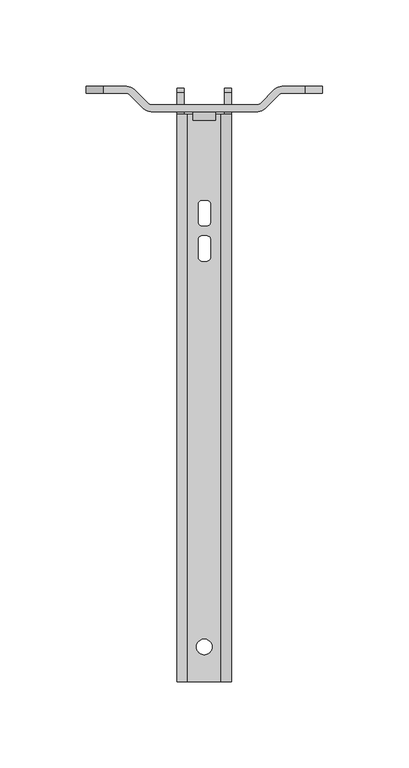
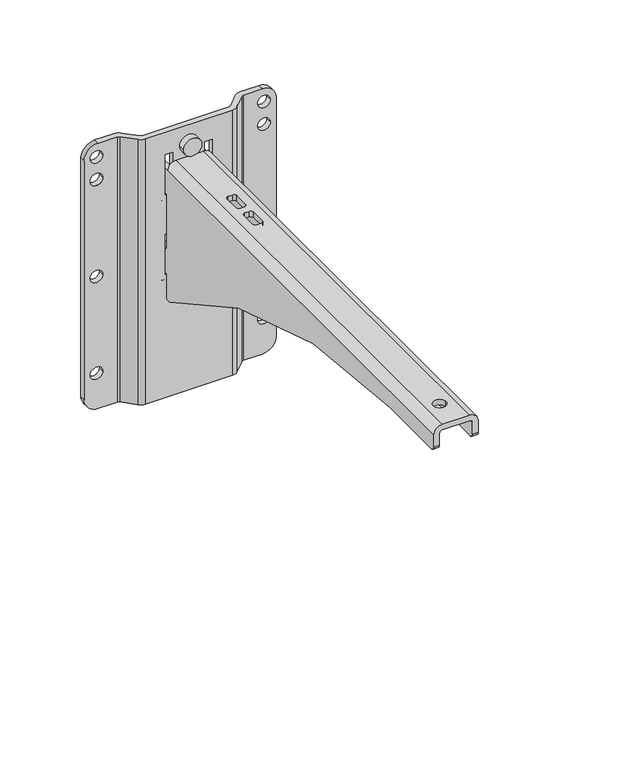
"""IFC4 building model written with IfcOpenShell, lengths in millimetres: proxy geometry, ePS10-WM330-HBRK535-WHM : ePS10-WM330-HBRK535-WHM."""

from ifc_helpers import new_model, si_unit, point, frame, frame_2d, origin, place, context, project, spatial, polyline, circle_curve, trimmed, segment, composite_curve, outline, extrude, source, transform, mapped, element, save
from ifc_brep_helpers import plane_surface, cylinder_surface, revolved_surface, advanced_brep


def generic_models_d4df1c55(model_context):
    return source(origin(), model_context, "Body", "SolidModel", [
        advanced_brep(
        [(-11.75, -344.6066017, -18.0), (-9.75, -344.6066017, -16.0), (9.75, -344.6066017, -16.0), (11.75, -344.6066017, -18.0), (11.75, -344.6066017, -27.0), (15.75, -344.6066017, -27.0), (15.75, -344.6066017, -17.9999955), (9.7500045, -344.6066017, -12.0), (-9.7500045, -344.6066017, -12.0), (-15.75, -344.6066017, -17.9999955), (-15.75, -344.6066017, -27.0), (-11.75, -344.6066017, -27.0), (15.75, -1.0, -19.5148645), (15.75, -1.0, -44.4851355), (11.75, -1.0, -44.4851355), (11.75, -1.0, -19.5148645), (15.75, -1.0, -79.5148645), (15.75, -1.0, -104.4851355), (11.75, -1.0, -104.4851355), (11.75, -1.0, -79.5148645), (-11.75, -1.0, -19.5148645), (-11.75, -1.0, -44.4851355), (-15.75, -1.0, -44.4851355), (-15.75, -1.0, -19.5148645), (-11.75, -1.0, -79.5148645), (-11.75, -1.0, -104.4851355), (-15.75, -1.0, -104.4851355), (-15.75, -1.0, -79.5148645), (-15.75, -16.1066017, -17.9999955), (-15.75, -3.6066017, -18.0), (-15.75, -3.6066017, -46.0), (-15.75, -6.6066017, -46.0), (-15.75, -9.6066017, -43.0), (-15.75, -9.6066017, -36.5), (-15.75, -14.6066017, -36.5), (-15.75, -14.6066017, -78.0), (-15.75, -3.6066017, -78.0), (-15.75, -3.6066017, -106.0), (-15.75, -6.6066017, -106.0), (-15.75, -9.6066017, -103.0), (-15.75, -9.6066017, -96.5), (-15.75, -14.6066017, -96.5), (-15.75, -14.6066017, -115.7221159), (-15.75, -17.1105815, -115.7221159), (-15.75, -19.7818053, -114.9054408), (-15.75, -290.8148171, -30.0), (-15.75, -341.6066017, -30.0), (-11.75, -14.6066017, -115.7221159), (-11.75, -17.1105815, -115.7221159), (-11.75, -341.6066017, -30.0), (-11.75, -290.8148171, -30.0), (-11.75, -19.7818053, -114.9054408), (-11.75, -14.6066017, -96.5), (-11.75, -9.6066017, -96.5), (-11.75, -9.6066017, -103.0), (-11.75, -6.6066017, -106.0), (-11.75, -3.6066017, -106.0), (-11.75, -3.6066017, -78.0), (-11.75, -14.6066017, -78.0), (-11.75, -14.6066017, -36.5), (-11.75, -9.6066017, -36.5), (-11.75, -9.6066017, -43.0), (-11.75, -6.6066017, -46.0), (-11.75, -3.6066017, -46.0), (-11.75, -3.6066017, -18.0), (-11.75, -16.1066017, -18.0), (-9.75, -16.1066017, -16.0), (9.75, -16.1066017, -16.0), (-4.5, -324.5, -16.0), (4.5, -324.5, -16.0), (3.5, -78.6066017, -16.0), (3.5, -68.1066017, -16.0), (1.5, -66.1066017, -16.0), (-1.5, -66.1066017, -16.0), (-3.5, -68.1066017, -16.0), (-3.5, -78.6066017, -16.0), (-1.5, -80.6066017, -16.0), (1.5, -80.6066017, -16.0), (3.5, -99.1066017, -16.0), (3.5, -88.6066017, -16.0), (1.5, -86.6066017, -16.0), (-1.5, -86.6066017, -16.0), (-3.5, -88.6066017, -16.0), (-3.5, -99.1066017, -16.0), (-1.5, -101.1066017, -16.0), (1.5, -101.1066017, -16.0), (11.75, -16.1066017, -18.0), (11.75, -3.6066017, -18.0), (11.75, -3.6066017, -46.0), (11.75, -6.6066017, -46.0), (11.75, -9.6066017, -43.0), (11.75, -9.6066017, -36.5), (11.75, -14.6066017, -36.5), (11.75, -14.6066017, -78.0), (11.75, -3.6066017, -78.0), (11.75, -3.6066017, -106.0), (11.75, -6.6066017, -106.0), (11.75, -9.6066017, -103.0), (11.75, -9.6066017, -96.5), (11.75, -14.6066017, -96.5), (11.75, -14.6066017, -115.7221159), (11.75, -17.1105815, -115.7221159), (11.75, -19.7818053, -114.9054408), (11.75, -290.8148171, -30.0), (11.75, -341.6066017, -30.0), (15.75, -14.6066017, -115.7221159), (15.75, -17.1105815, -115.7221159), (15.75, -341.6066017, -30.0), (15.75, -290.8148171, -30.0), (15.75, -19.7818053, -114.9054408), (15.75, -14.6066017, -96.5), (15.75, -9.6066017, -96.5), (15.75, -9.6066017, -103.0), (15.75, -6.6066017, -106.0), (15.75, -3.6066017, -106.0), (15.75, -3.6066017, -78.0), (15.75, -14.6066017, -78.0), (15.75, -14.6066017, -36.5), (15.75, -9.6066017, -36.5), (15.75, -9.6066017, -43.0), (15.75, -6.6066017, -46.0), (15.75, -3.6066017, -46.0), (15.75, -3.6066017, -18.0), (15.75, -16.1066017, -18.0), (9.7500045, -16.1066017, -12.0), (-9.7500045, -16.1066017, -12.0), (4.5, -324.5, -12.0), (-4.5, -324.5, -12.0), (3.5, -68.1066017, -12.0), (3.5, -78.6066017, -12.0), (1.5, -80.6066017, -12.0), (-1.5, -80.6066017, -12.0), (-3.5, -78.6066017, -12.0), (-3.5, -68.1066017, -12.0), (-1.5, -66.1066017, -12.0), (1.5, -66.1066017, -12.0), (3.5, -88.6066017, -12.0), (3.5, -99.1066017, -12.0), (1.5, -101.1066017, -12.0), (-1.5, -101.1066017, -12.0), (-3.5, -99.1066017, -12.0), (-3.5, -88.6066017, -12.0), (-1.5, -86.6066017, -12.0), (1.5, -86.6066017, -12.0)],
        [
            (0, 1, circle_curve(frame((-9.75, -344.6066017, -18.0), z_axis=(0.0, 1.0, 0.0), x_axis=(1.0, 0.0, 0.0)), 2.0)),
            (1, 2),
            (2, 3, circle_curve(frame((9.75, -344.6066017, -18.0), z_axis=(0.0, 1.0, 0.0), x_axis=(-1.0, 0.0, 0.0)), 2.0)),
            (3, 4),
            (4, 5),
            (5, 6),
            (6, 7, circle_curve(frame((9.7500045, -344.6066017, -17.9999955), z_axis=(0.0, -1.0, 0.0), x_axis=(-1.0, 0.0, 0.0)), 5.9999955)),
            (7, 8),
            (8, 9, circle_curve(frame((-9.7500045, -344.6066017, -17.9999955), z_axis=(0.0, -1.0, 0.0), x_axis=(1.0, 0.0, 0.0)), 5.9999955)),
            (9, 10),
            (10, 11),
            (11, 0),
            (12, 13),
            (13, 14),
            (14, 15),
            (15, 12),
            (16, 17),
            (17, 18),
            (18, 19),
            (19, 16),
            (20, 21),
            (21, 22),
            (22, 23),
            (23, 20),
            (24, 25),
            (25, 26),
            (26, 27),
            (27, 24),
            (9, 28),
            (28, 29),
            (29, 23, circle_curve(frame((-15.75, -3.6066017, -21.0), z_axis=(-1.0, 0.0, 0.0), x_axis=(0.0, 1.0, 0.0)), 3.0)),
            (22, 30, circle_curve(frame((-15.75, -3.6066017, -43.0), z_axis=(-1.0, 0.0, 0.0), x_axis=(0.0, 1.0, 0.0)), 3.0)),
            (30, 31),
            (31, 32, circle_curve(frame((-15.75, -6.6066017, -43.0), z_axis=(-1.0, 0.0, 0.0), x_axis=(0.0, 1.0, 0.0)), 3.0)),
            (32, 33),
            (33, 34),
            (34, 35),
            (35, 36),
            (36, 27, circle_curve(frame((-15.75, -3.6066017, -81.0), z_axis=(-1.0, 0.0, 0.0), x_axis=(0.0, 1.0, 0.0)), 3.0)),
            (26, 37, circle_curve(frame((-15.75, -3.6066017, -103.0), z_axis=(-1.0, 0.0, 0.0), x_axis=(0.0, 1.0, 0.0)), 3.0)),
            (37, 38),
            (38, 39, circle_curve(frame((-15.75, -6.6066017, -103.0), z_axis=(-1.0, 0.0, 0.0), x_axis=(0.0, 1.0, 0.0)), 3.0)),
            (39, 40),
            (40, 41),
            (41, 42),
            (42, 43),
            (43, 44, circle_curve(frame((-15.75, -17.1105815, -110.9451887), z_axis=(-1.0, 0.0, 0.0), x_axis=(0.0, 1.0, 0.0)), 4.7769272)),
            (44, 45, circle_curve(frame((-15.75, -290.8148171, -505.0451006), z_axis=(1.0, 0.0, 0.0), x_axis=(0.0, 1.0, 0.0)), 475.0451006)),
            (45, 46),
            (46, 10, circle_curve(frame((-15.75, -341.6066017, -27.0), z_axis=(-1.0, 0.0, 0.0), x_axis=(0.0, 1.0, 0.0)), 3.0)),
            (42, 47),
            (47, 48),
            (48, 43),
            (11, 49, circle_curve(frame((-11.75, -341.6066017, -27.0), z_axis=(1.0, 0.0, 0.0), x_axis=(0.0, 1.0, 0.0)), 3.0)),
            (49, 50),
            (50, 51, circle_curve(frame((-11.75, -290.8148171, -505.0451006), z_axis=(-1.0, 0.0, 0.0), x_axis=(0.0, 1.0, 0.0)), 475.0451006)),
            (51, 48, circle_curve(frame((-11.75, -17.1105815, -110.9451887), z_axis=(1.0, 0.0, 0.0), x_axis=(0.0, 1.0, 0.0)), 4.7769272)),
            (47, 52),
            (52, 53),
            (53, 54),
            (54, 55, circle_curve(frame((-11.75, -6.6066017, -103.0), z_axis=(1.0, 0.0, 0.0), x_axis=(0.0, 1.0, 0.0)), 3.0)),
            (55, 56),
            (56, 25, circle_curve(frame((-11.75, -3.6066017, -103.0), z_axis=(1.0, 0.0, 0.0), x_axis=(0.0, 1.0, 0.0)), 3.0)),
            (24, 57, circle_curve(frame((-11.75, -3.6066017, -81.0), z_axis=(1.0, 0.0, 0.0), x_axis=(0.0, 1.0, 0.0)), 3.0)),
            (57, 58),
            (58, 59),
            (59, 60),
            (60, 61),
            (61, 62, circle_curve(frame((-11.75, -6.6066017, -43.0), z_axis=(1.0, 0.0, 0.0), x_axis=(0.0, 1.0, 0.0)), 3.0)),
            (62, 63),
            (63, 21, circle_curve(frame((-11.75, -3.6066017, -43.0), z_axis=(1.0, 0.0, 0.0), x_axis=(0.0, 1.0, 0.0)), 3.0)),
            (20, 64, circle_curve(frame((-11.75, -3.6066017, -21.0), z_axis=(1.0, 0.0, 0.0), x_axis=(0.0, 1.0, 0.0)), 3.0)),
            (64, 65),
            (65, 0),
            (65, 66, circle_curve(frame((-9.75, -16.1066017, -18.0), z_axis=(0.0, 1.0, 0.0), x_axis=(1.0, 0.0, 0.0)), 2.0)),
            (66, 1),
            (66, 67),
            (67, 2),
            (68, 69, circle_curve(frame((0.0, -324.5, -16.0), z_axis=(0.0, 0.0, 1.0), x_axis=(1.0, 0.0, 0.0)), 4.5)),
            (69, 68, circle_curve(frame((0.0, -324.5, -16.0), z_axis=(0.0, 0.0, 1.0), x_axis=(1.0, 0.0, 0.0)), 4.5)),
            (70, 71),
            (71, 72, circle_curve(frame((1.5, -68.1066017, -16.0), z_axis=(0.0, 0.0, 1.0), x_axis=(1.0, 0.0, 0.0)), 2.0)),
            (72, 73),
            (73, 74, circle_curve(frame((-1.5, -68.1066017, -16.0), z_axis=(0.0, 0.0, 1.0), x_axis=(-1.0, 0.0, 0.0)), 2.0)),
            (74, 75),
            (75, 76, circle_curve(frame((-1.5, -78.6066017, -16.0), z_axis=(0.0, 0.0, 1.0), x_axis=(-1.0, 0.0, 0.0)), 2.0)),
            (76, 77),
            (77, 70, circle_curve(frame((1.5, -78.6066017, -16.0), z_axis=(0.0, 0.0, 1.0), x_axis=(1.0, 0.0, 0.0)), 2.0)),
            (78, 79),
            (79, 80, circle_curve(frame((1.5, -88.6066017, -16.0), z_axis=(0.0, 0.0, 1.0), x_axis=(1.0, 0.0, 0.0)), 2.0)),
            (80, 81),
            (81, 82, circle_curve(frame((-1.5, -88.6066017, -16.0), z_axis=(0.0, 0.0, 1.0), x_axis=(-1.0, 0.0, 0.0)), 2.0)),
            (82, 83),
            (83, 84, circle_curve(frame((-1.5, -99.1066017, -16.0), z_axis=(0.0, 0.0, 1.0), x_axis=(-1.0, 0.0, 0.0)), 2.0)),
            (84, 85),
            (85, 78, circle_curve(frame((1.5, -99.1066017, -16.0), z_axis=(0.0, 0.0, 1.0), x_axis=(1.0, 0.0, 0.0)), 2.0)),
            (67, 86, circle_curve(frame((9.75, -16.1066017, -18.0), z_axis=(0.0, 1.0, 0.0), x_axis=(-1.0, 0.0, 0.0)), 2.0)),
            (86, 3),
            (86, 87),
            (87, 15, circle_curve(frame((11.75, -3.6066017, -21.0), z_axis=(-1.0, 0.0, 0.0), x_axis=(0.0, 1.0, 0.0)), 3.0)),
            (14, 88, circle_curve(frame((11.75, -3.6066017, -43.0), z_axis=(-1.0, 0.0, 0.0), x_axis=(0.0, 1.0, 0.0)), 3.0)),
            (88, 89),
            (89, 90, circle_curve(frame((11.75, -6.6066017, -43.0), z_axis=(-1.0, 0.0, 0.0), x_axis=(0.0, 1.0, 0.0)), 3.0)),
            (90, 91),
            (91, 92),
            (92, 93),
            (93, 94),
            (94, 19, circle_curve(frame((11.75, -3.6066017, -81.0), z_axis=(-1.0, 0.0, 0.0), x_axis=(0.0, 1.0, 0.0)), 3.0)),
            (18, 95, circle_curve(frame((11.75, -3.6066017, -103.0), z_axis=(-1.0, 0.0, 0.0), x_axis=(0.0, 1.0, 0.0)), 3.0)),
            (95, 96),
            (96, 97, circle_curve(frame((11.75, -6.6066017, -103.0), z_axis=(-1.0, 0.0, 0.0), x_axis=(0.0, 1.0, 0.0)), 3.0)),
            (97, 98),
            (98, 99),
            (99, 100),
            (100, 101),
            (101, 102, circle_curve(frame((11.75, -17.1105815, -110.9451887), z_axis=(-1.0, 0.0, 0.0), x_axis=(0.0, 1.0, 0.0)), 4.7769272)),
            (102, 103, circle_curve(frame((11.75, -290.8148171, -505.0451006), z_axis=(1.0, 0.0, 0.0), x_axis=(0.0, 1.0, 0.0)), 475.0451006)),
            (103, 104),
            (104, 4, circle_curve(frame((11.75, -341.6066017, -27.0), z_axis=(-1.0, 0.0, 0.0), x_axis=(0.0, 1.0, 0.0)), 3.0)),
            (100, 105),
            (105, 106),
            (106, 101),
            (5, 107, circle_curve(frame((15.75, -341.6066017, -27.0), z_axis=(1.0, 0.0, 0.0), x_axis=(0.0, 1.0, 0.0)), 3.0)),
            (107, 108),
            (108, 109, circle_curve(frame((15.75, -290.8148171, -505.0451006), z_axis=(-1.0, 0.0, 0.0), x_axis=(0.0, 1.0, 0.0)), 475.0451006)),
            (109, 106, circle_curve(frame((15.75, -17.1105815, -110.9451887), z_axis=(1.0, 0.0, 0.0), x_axis=(0.0, 1.0, 0.0)), 4.7769272)),
            (105, 110),
            (110, 111),
            (111, 112),
            (112, 113, circle_curve(frame((15.75, -6.6066017, -103.0), z_axis=(1.0, 0.0, 0.0), x_axis=(0.0, 1.0, 0.0)), 3.0)),
            (113, 114),
            (114, 17, circle_curve(frame((15.75, -3.6066017, -103.0), z_axis=(1.0, 0.0, 0.0), x_axis=(0.0, 1.0, 0.0)), 3.0)),
            (16, 115, circle_curve(frame((15.75, -3.6066017, -81.0), z_axis=(1.0, 0.0, 0.0), x_axis=(0.0, 1.0, 0.0)), 3.0)),
            (115, 116),
            (116, 117),
            (117, 118),
            (118, 119),
            (119, 120, circle_curve(frame((15.75, -6.6066017, -43.0), z_axis=(1.0, 0.0, 0.0), x_axis=(0.0, 1.0, 0.0)), 3.0)),
            (120, 121),
            (121, 13, circle_curve(frame((15.75, -3.6066017, -43.0), z_axis=(1.0, 0.0, 0.0), x_axis=(0.0, 1.0, 0.0)), 3.0)),
            (12, 122, circle_curve(frame((15.75, -3.6066017, -21.0), z_axis=(1.0, 0.0, 0.0), x_axis=(0.0, 1.0, 0.0)), 3.0)),
            (122, 123),
            (123, 6),
            (123, 124, circle_curve(frame((9.7500045, -16.1066017, -17.9999955), z_axis=(0.0, -1.0, 0.0), x_axis=(-1.0, 0.0, 0.0)), 5.9999955)),
            (124, 7),
            (124, 125),
            (125, 8),
            (126, 127, circle_curve(frame((0.0, -324.5, -12.0), z_axis=(0.0, 0.0, -1.0), x_axis=(1.0, 0.0, 0.0)), 4.5)),
            (127, 126, circle_curve(frame((0.0, -324.5, -12.0), z_axis=(0.0, 0.0, -1.0), x_axis=(1.0, 0.0, 0.0)), 4.5)),
            (128, 129),
            (129, 130, circle_curve(frame((1.5, -78.6066017, -12.0), z_axis=(0.0, 0.0, -1.0), x_axis=(1.0, 0.0, 0.0)), 2.0)),
            (130, 131),
            (131, 132, circle_curve(frame((-1.5, -78.6066017, -12.0), z_axis=(0.0, 0.0, -1.0), x_axis=(-1.0, 0.0, 0.0)), 2.0)),
            (132, 133),
            (133, 134, circle_curve(frame((-1.5, -68.1066017, -12.0), z_axis=(0.0, 0.0, -1.0), x_axis=(-1.0, 0.0, 0.0)), 2.0)),
            (134, 135),
            (135, 128, circle_curve(frame((1.5, -68.1066017, -12.0), z_axis=(0.0, 0.0, -1.0), x_axis=(1.0, 0.0, 0.0)), 2.0)),
            (136, 137),
            (137, 138, circle_curve(frame((1.5, -99.1066017, -12.0), z_axis=(0.0, 0.0, -1.0), x_axis=(1.0, 0.0, 0.0)), 2.0)),
            (138, 139),
            (139, 140, circle_curve(frame((-1.5, -99.1066017, -12.0), z_axis=(0.0, 0.0, -1.0), x_axis=(-1.0, 0.0, 0.0)), 2.0)),
            (140, 141),
            (141, 142, circle_curve(frame((-1.5, -88.6066017, -12.0), z_axis=(0.0, 0.0, -1.0), x_axis=(-1.0, 0.0, 0.0)), 2.0)),
            (142, 143),
            (143, 136, circle_curve(frame((1.5, -88.6066017, -12.0), z_axis=(0.0, 0.0, -1.0), x_axis=(1.0, 0.0, 0.0)), 2.0)),
            (125, 28, circle_curve(frame((-9.7500045, -16.1066017, -17.9999955), z_axis=(0.0, -1.0, 0.0), x_axis=(1.0, 0.0, 0.0)), 5.9999955)),
            (46, 49),
            (104, 107),
            (45, 50),
            (103, 108),
            (30, 63),
            (62, 31),
            (88, 121),
            (120, 89),
            (32, 61),
            (60, 33),
            (90, 119),
            (118, 91),
            (59, 34),
            (117, 92),
            (41, 52),
            (99, 110),
            (65, 28),
            (123, 86),
            (64, 29),
            (122, 87),
            (58, 35),
            (116, 93),
            (57, 36),
            (115, 94),
            (56, 37),
            (114, 95),
            (55, 38),
            (113, 96),
            (54, 39),
            (112, 97),
            (53, 40),
            (111, 98),
            (68, 127),
            (126, 69),
            (70, 129),
            (128, 71),
            (135, 72),
            (134, 73),
            (133, 74),
            (132, 75),
            (131, 76),
            (130, 77),
            (78, 137),
            (136, 79),
            (143, 80),
            (142, 81),
            (141, 82),
            (140, 83),
            (139, 84),
            (138, 85),
            (51, 44),
            (109, 102),
        ],
        [
            plane_surface(frame((-15.75, -344.6066017, -111.5465509), z_axis=(0.0, -1.0, 0.0), x_axis=(0.0, 0.0, -1.0))),
            plane_surface(frame((-15.75, -1.0, -111.5465509), z_axis=(0.0, 1.0, 0.0), x_axis=(0.0, 0.0, 1.0))),
            plane_surface(frame((-15.75, -344.6066017, -17.9999955), z_axis=(-1.0, 0.0, 0.0), x_axis=(0.0, 1.0, 0.0))),
            plane_surface(frame((-15.75, -344.6066017, -115.7221159), z_axis=(0.0, 0.0, -1.0), x_axis=(0.0, 1.0, 0.0))),
            plane_surface(frame((-11.75, -344.6066017, -115.7221159), z_axis=(1.0, 0.0, 0.0), x_axis=(0.0, 1.0, 0.0))),
            revolved_surface(polyline([(-7.75, -16.1066017, -18.0), (-7.75, -344.6066017, -18.0)]), (-9.75, -1.0, -18.0), (0.0, 1.0, 0.0)),
            plane_surface(frame((-9.75, -344.6066017, -16.0), z_axis=(0.0, 0.0, -1.0), x_axis=(0.0, 1.0, 0.0))),
            revolved_surface(polyline([(7.75, -16.1066017, -18.0), (7.75, -344.6066017, -18.0)]), (9.75, -1.0, -18.0), (0.0, 1.0, 0.0)),
            plane_surface(frame((11.75, -344.6066017, -18.0), z_axis=(-1.0, 0.0, 0.0), x_axis=(0.0, 1.0, 0.0))),
            plane_surface(frame((11.75, -344.6066017, -115.7221159), z_axis=(0.0, 0.0, -1.0), x_axis=(0.0, 1.0, 0.0))),
            plane_surface(frame((15.75, -344.6066017, -115.7221159), z_axis=(1.0, 0.0, 0.0), x_axis=(0.0, 1.0, 0.0))),
            cylinder_surface(frame((9.7500045, -1.0, -17.9999955), z_axis=(0.0, -1.0, 0.0), x_axis=(-1.0, 0.0, 0.0)), 5.9999955),
            plane_surface(frame((9.7500045, -344.6066017, -12.0), z_axis=(0.0, 0.0, 1.0), x_axis=(0.0, 1.0, 0.0))),
            cylinder_surface(frame((-9.7500045, -1.0, -17.9999955), z_axis=(0.0, -1.0, 0.0), x_axis=(1.0, 0.0, 0.0)), 5.9999955),
            cylinder_surface(frame((-20.0, -341.6066017, -27.0), z_axis=(-1.0, 0.0, 0.0), x_axis=(0.0, 1.0, 0.0)), 3.0),
            plane_surface(frame((20.0, -290.8148171, -30.0), z_axis=(0.0, 0.0, -1.0), x_axis=(-1.0, 0.0, 0.0))),
            plane_surface(frame((20.0, -3.6066017, -46.0), z_axis=(0.0, 0.0, -1.0), x_axis=(-1.0, 0.0, 0.0))),
            plane_surface(frame((20.0, -9.6066017, -43.0), z_axis=(0.0, -1.0, 0.0), x_axis=(-1.0, 0.0, 0.0))),
            plane_surface(frame((20.0, -9.6066017, -36.5), z_axis=(0.0, 0.0, -1.0), x_axis=(-1.0, 0.0, 0.0))),
            plane_surface(frame((20.0, -14.6066017, -96.5), z_axis=(0.0, 1.0, 0.0), x_axis=(-1.0, 0.0, 0.0))),
            plane_surface(frame((20.0, -16.1066017, -12.0), z_axis=(0.0, 1.0, 0.0), x_axis=(-1.0, 0.0, 0.0))),
            plane_surface(frame((20.0, -16.1066017, -18.0), z_axis=(0.0, 0.0, 1.0), x_axis=(-1.0, 0.0, 0.0))),
            cylinder_surface(frame((0.0, -3.6066017, -21.0), z_axis=(-1.0, 0.0, 0.0), x_axis=(0.0, 1.0, 0.0)), 3.0),
            cylinder_surface(frame((0.0, -3.6066017, -43.0), z_axis=(-1.0, 0.0, 0.0), x_axis=(0.0, 1.0, 0.0)), 3.0),
            cylinder_surface(frame((0.0, -6.6066017, -43.0), z_axis=(-1.0, 0.0, 0.0), x_axis=(0.0, 1.0, 0.0)), 3.0),
            plane_surface(frame((20.0, -14.6066017, -36.5), z_axis=(0.0, 1.0, 0.0), x_axis=(-1.0, 0.0, 0.0))),
            plane_surface(frame((20.0, -14.6066017, -78.0), z_axis=(0.0, 0.0, 1.0), x_axis=(-1.0, 0.0, 0.0))),
            cylinder_surface(frame((0.0, -3.6066017, -81.0), z_axis=(-1.0, 0.0, 0.0), x_axis=(0.0, 1.0, 0.0)), 3.0),
            cylinder_surface(frame((0.0, -3.6066017, -103.0), z_axis=(-1.0, 0.0, 0.0), x_axis=(0.0, 1.0, 0.0)), 3.0),
            plane_surface(frame((20.0, -3.6066017, -106.0), z_axis=(0.0, 0.0, -1.0), x_axis=(-1.0, 0.0, 0.0))),
            cylinder_surface(frame((0.0, -6.6066017, -103.0), z_axis=(-1.0, 0.0, 0.0), x_axis=(0.0, 1.0, 0.0)), 3.0),
            plane_surface(frame((20.0, -9.6066017, -103.0), z_axis=(0.0, -1.0, 0.0), x_axis=(-1.0, 0.0, 0.0))),
            plane_surface(frame((20.0, -9.6066017, -96.5), z_axis=(0.0, 0.0, -1.0), x_axis=(-1.0, 0.0, 0.0))),
            revolved_surface(polyline([(4.5, -324.5, -12.0), (4.5, -324.5, -16.0)]), (0.0, -324.5, -18.0), (0.0, 0.0, 1.0)),
            plane_surface(frame((3.5, -78.6066017, -12.0), z_axis=(-1.0, 0.0, 0.0), x_axis=(0.0, 0.0, -1.0))),
            revolved_surface(polyline([(3.5, -68.1066017, -12.0), (3.5, -68.1066017, -16.0)]), (1.5, -68.1066017, -12.0), (0.0, 0.0, 1.0)),
            plane_surface(frame((1.5, -66.1066017, -12.0), z_axis=(0.0, -1.0, 0.0), x_axis=(0.0, 0.0, -1.0))),
            revolved_surface(polyline([(-3.5, -68.1066017, -12.0), (-3.5, -68.1066017, -16.0)]), (-1.5, -68.1066017, -12.0), (0.0, 0.0, 1.0)),
            plane_surface(frame((-3.5, -68.1066017, -12.0), z_axis=(1.0, 0.0, 0.0), x_axis=(0.0, 0.0, -1.0))),
            revolved_surface(polyline([(-3.5, -78.6066017, -12.0), (-3.5, -78.6066017, -16.0)]), (-1.5, -78.6066017, -12.0), (0.0, 0.0, 1.0)),
            plane_surface(frame((-1.5, -80.6066017, -12.0), z_axis=(0.0, 1.0, 0.0), x_axis=(0.0, 0.0, -1.0))),
            revolved_surface(polyline([(3.5, -78.6066017, -12.0), (3.5, -78.6066017, -16.0)]), (1.5, -78.6066017, -12.0), (0.0, 0.0, 1.0)),
            plane_surface(frame((3.5, -99.1066017, -12.0), z_axis=(-1.0, 0.0, 0.0), x_axis=(0.0, 0.0, -1.0))),
            revolved_surface(polyline([(3.5, -88.6066017, -12.0), (3.5, -88.6066017, -16.0)]), (1.5, -88.6066017, -12.0), (0.0, 0.0, 1.0)),
            plane_surface(frame((1.5, -86.6066017, -12.0), z_axis=(0.0, -1.0, 0.0), x_axis=(0.0, 0.0, -1.0))),
            revolved_surface(polyline([(-3.5, -88.6066017, -12.0), (-3.5, -88.6066017, -16.0)]), (-1.5, -88.6066017, -12.0), (0.0, 0.0, 1.0)),
            plane_surface(frame((-3.5, -88.6066017, -12.0), z_axis=(1.0, 0.0, 0.0), x_axis=(0.0, 0.0, -1.0))),
            revolved_surface(polyline([(-3.5, -99.1066017, -12.0), (-3.5, -99.1066017, -16.0)]), (-1.5, -99.1066017, -12.0), (0.0, 0.0, 1.0)),
            plane_surface(frame((-1.5, -101.1066017, -12.0), z_axis=(0.0, 1.0, 0.0), x_axis=(0.0, 0.0, -1.0))),
            revolved_surface(polyline([(3.5, -99.1066017, -12.0), (3.5, -99.1066017, -16.0)]), (1.5, -99.1066017, -12.0), (0.0, 0.0, 1.0)),
            cylinder_surface(frame((-20.0, -17.1105815, -110.9451887), z_axis=(-1.0, 0.0, 0.0), x_axis=(0.0, 1.0, 0.0)), 4.7769272),
            revolved_surface(polyline([(-11.75, 184.23028349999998, -505.0451006), (-15.75, 184.23028349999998, -505.0451006)]), (-20.0, -290.8148171, -505.0451006), (1.0, 0.0, 0.0)),
            revolved_surface(polyline([(15.75, 184.23028349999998, -505.0451006), (11.75, 184.23028349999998, -505.0451006)]), (-20.0, -290.8148171, -505.0451006), (1.0, 0.0, 0.0)),
        ],
        [
            (0, [[1, 2, 3, 4, 5, 6, 7, 8, 9, 10, 11, 12]]),
            (1, [[13, 14, 15, 16]]),
            (1, [[17, 18, 19, 20]]),
            (1, [[21, 22, 23, 24]]),
            (1, [[25, 26, 27, 28]]),
            (2, [[-10, 29, 30, 31, -23, 32, 33, 34, 35, 36, 37, 38, 39, -27, 40, 41, 42, 43, 44, 45, 46, 47, 48, 49, 50]]),
            (3, [[-46, 51, 52, 53]]),
            (4, [[-12, 54, 55, 56, 57, -52, 58, 59, 60, 61, 62, 63, -25, 64, 65, 66, 67, 68, 69, 70, 71, -21, 72, 73, 74]]),
            (5, [[-1, -74, 75, 76]]),
            (6, [[-2, -76, 77, 78], [79, 80], [81, 82, 83, 84, 85, 86, 87, 88], [89, 90, 91, 92, 93, 94, 95, 96]]),
            (7, [[-3, -78, 97, 98]]),
            (8, [[-4, -98, 99, 100, -15, 101, 102, 103, 104, 105, 106, 107, 108, -19, 109, 110, 111, 112, 113, 114, 115, 116, 117, 118, 119]]),
            (9, [[-115, 120, 121, 122]]),
            (10, [[-6, 123, 124, 125, 126, -121, 127, 128, 129, 130, 131, 132, -17, 133, 134, 135, 136, 137, 138, 139, 140, -13, 141, 142, 143]]),
            (11, [[-7, -143, 144, 145]]),
            (12, [[-8, -145, 146, 147], [148, 149], [150, 151, 152, 153, 154, 155, 156, 157], [158, 159, 160, 161, 162, 163, 164, 165]]),
            (13, [[-9, -147, 166, -29]]),
            (14, [[167, -54, -11, -50]]),
            (14, [[168, -123, -5, -119]]),
            (15, [[-167, -49, 169, -55]]),
            (15, [[-168, -118, 170, -124]]),
            (16, [[171, -70, 172, -33]]),
            (16, [[173, -139, 174, -102]]),
            (17, [[175, -68, 176, -35]]),
            (17, [[177, -137, 178, -104]]),
            (18, [[-176, -67, 179, -36]]),
            (18, [[-178, -136, 180, -105]]),
            (19, [[181, -58, -51, -45]]),
            (19, [[182, -127, -120, -114]]),
            (20, [[183, -166, -146, -144, 184, -97, -77, -75]]),
            (21, [[-183, -73, 185, -30]]),
            (21, [[-184, -142, 186, -99]]),
            (22, [[-185, -72, -24, -31]]),
            (22, [[-186, -141, -16, -100]]),
            (23, [[-171, -32, -22, -71]]),
            (23, [[-173, -101, -14, -140]]),
            (24, [[-175, -34, -172, -69]]),
            (24, [[-177, -103, -174, -138]]),
            (25, [[-179, -66, 187, -37]]),
            (25, [[-180, -135, 188, -106]]),
            (26, [[-187, -65, 189, -38]]),
            (26, [[-188, -134, 190, -107]]),
            (27, [[-189, -64, -28, -39]]),
            (27, [[-190, -133, -20, -108]]),
            (28, [[191, -40, -26, -63]]),
            (28, [[192, -109, -18, -132]]),
            (29, [[-191, -62, 193, -41]]),
            (29, [[-192, -131, 194, -110]]),
            (30, [[-193, -61, 195, -42]]),
            (30, [[-194, -130, 196, -111]]),
            (31, [[-195, -60, 197, -43]]),
            (31, [[-196, -129, 198, -112]]),
            (32, [[-181, -44, -197, -59]]),
            (32, [[-182, -113, -198, -128]]),
            (33, [[199, -148, 200, -79]]),
            (33, [[-199, -80, -200, -149]]),
            (34, [[201, -150, 202, -81]]),
            (35, [[-202, -157, 203, -82]]),
            (36, [[-203, -156, 204, -83]]),
            (37, [[-204, -155, 205, -84]]),
            (38, [[-205, -154, 206, -85]]),
            (39, [[-206, -153, 207, -86]]),
            (40, [[-207, -152, 208, -87]]),
            (41, [[-201, -88, -208, -151]]),
            (42, [[209, -158, 210, -89]]),
            (43, [[-210, -165, 211, -90]]),
            (44, [[-211, -164, 212, -91]]),
            (45, [[-212, -163, 213, -92]]),
            (46, [[-213, -162, 214, -93]]),
            (47, [[-214, -161, 215, -94]]),
            (48, [[-215, -160, 216, -95]]),
            (49, [[-209, -96, -216, -159]]),
            (50, [[217, -47, -53, -57]]),
            (50, [[218, -116, -122, -126]]),
            (51, [[-169, -48, -217, -56]]),
            (52, [[-170, -117, -218, -125]]),
        ],
    ),
        extrude(outline(composite_curve([segment(trimmed(circle_curve(frame_2d((-3.5647723, 0.0)), 6.5342939), [point((-3.5647723, -6.5342939))], [point((-3.5647723, 6.5342939))], False, "CARTESIAN"), True, "CONTINUOUS"), segment(trimmed(circle_curve(frame_2d((-3.5647723, 0.0)), 6.5342939), [point((-3.5647723, 6.5342939))], [point((-3.5647723, -6.5342939))], False, "CARTESIAN"), True, "CONTINUOUS")], self_intersect=False)), frame((0.0, -19.6066017, 0.0), z_axis=(0.0, 1.0, 0.0), x_axis=(0.0, 0.0, 1.0)), (0.0, 0.0, 1.0), 5.0),
        advanced_brep(
        [(44.9203102, 0.0, 10.5), (40.6776695, -1.7573593, 10.5), (32.4142136, -10.0208153, 10.5), (31.0, -10.6066017, 10.5), (-31.0, -10.6066017, 10.5), (-32.4142136, -10.0208153, 10.5), (-40.6776695, -1.7573593, 10.5), (-44.9203102, 0.0, 10.5), (-58.4350288, 0.0, 10.5), (-58.4350288, -4.0, 10.5), (-44.9203102, -4.0, 10.5), (-43.5060967, -4.5857864, 10.5), (-35.2426407, -12.8492424, 10.5), (-31.0, -14.6066017, 10.5), (31.0, -14.6066017, 10.5), (35.2426407, -12.8492424, 10.5), (43.5060967, -4.5857864, 10.5), (44.9203102, -4.0, 10.5), (58.4350288, -4.0, 10.5), (58.4350288, 0.0, 10.5), (44.9203102, -4.0, -189.5), (43.5060967, -4.5857864, -189.5), (35.2426407, -12.8492424, -189.5), (31.0, -14.6066017, -189.5), (-31.0, -14.6066017, -189.5), (-35.2426407, -12.8492424, -189.5), (-43.5060967, -4.5857864, -189.5), (-44.9203102, -4.0, -189.5), (-58.4350288, -4.0, -189.5), (-58.4350288, 0.0, -189.5), (-44.9203102, 0.0, -189.5), (-40.6776695, -1.7573593, -189.5), (-32.4142136, -10.0208153, -189.5), (-31.0, -10.6066017, -189.5), (31.0, -10.6066017, -189.5), (32.4142136, -10.0208153, -189.5), (40.6776695, -1.7573593, -189.5), (44.9203102, 0.0, -189.5), (58.4350288, 0.0, -189.5), (58.4350288, -4.0, -189.5), (68.4350288, 0.0, 0.5), (68.4350288, 0.0, -179.5), (55.1844308, 0.0, 0.5), (64.1844308, 0.0, 0.5), (55.1844308, 0.0, -16.5), (64.1844308, 0.0, -16.5), (55.1844308, 0.0, -89.5), (64.1844308, 0.0, -89.5), (55.1844308, 0.0, -162.5), (64.1844308, 0.0, -162.5), (16.75, -10.6066017, -6.5), (11.25, -10.6066017, -6.5), (11.25, -10.6066017, -36.5), (16.75, -10.6066017, -36.5), (16.75, -10.6066017, -66.5), (11.25, -10.6066017, -66.5), (11.25, -10.6066017, -96.5), (16.75, -10.6066017, -96.5), (-16.75, -10.6066017, -6.5), (-16.75, -10.6066017, -36.5), (-11.25, -10.6066017, -36.5), (-11.25, -10.6066017, -6.5), (-16.75, -10.6066017, -66.5), (-16.75, -10.6066017, -96.5), (-11.25, -10.6066017, -96.5), (-11.25, -10.6066017, -66.5), (-68.4350288, 0.0, -179.5), (-68.4350288, 0.0, 0.5), (-55.1844308, 0.0, 0.5), (-64.1844308, 0.0, 0.5), (-55.1844308, 0.0, -16.5), (-64.1844308, 0.0, -16.5), (-55.1844308, 0.0, -89.5), (-64.1844308, 0.0, -89.5), (-55.1844308, 0.0, -162.5), (-64.1844308, 0.0, -162.5), (-68.4350288, -4.0, -179.5), (-68.4350288, -4.0, 0.5), (-64.1844308, -4.0, 0.5), (-55.1844308, -4.0, 0.5), (-64.1844308, -4.0, -16.5), (-55.1844308, -4.0, -16.5), (-64.1844308, -4.0, -89.5), (-55.1844308, -4.0, -89.5), (-64.1844308, -4.0, -162.5), (-55.1844308, -4.0, -162.5), (11.25, -14.6066017, -6.5), (16.75, -14.6066017, -6.5), (16.75, -14.6066017, -36.5), (11.25, -14.6066017, -36.5), (11.25, -14.6066017, -66.5), (16.75, -14.6066017, -66.5), (16.75, -14.6066017, -96.5), (11.25, -14.6066017, -96.5), (-16.75, -14.6066017, -36.5), (-16.75, -14.6066017, -6.5), (-11.25, -14.6066017, -6.5), (-11.25, -14.6066017, -36.5), (-16.75, -14.6066017, -96.5), (-16.75, -14.6066017, -66.5), (-11.25, -14.6066017, -66.5), (-11.25, -14.6066017, -96.5), (68.4350288, -4.0, -179.5), (68.4350288, -4.0, 0.5), (64.1844308, -4.0, 0.5), (55.1844308, -4.0, 0.5), (64.1844308, -4.0, -16.5), (55.1844308, -4.0, -16.5), (64.1844308, -4.0, -89.5), (55.1844308, -4.0, -89.5), (64.1844308, -4.0, -162.5), (55.1844308, -4.0, -162.5)],
        [
            (0, 1, circle_curve(frame((44.9203102, -6.0, 10.5), z_axis=(0.0, 0.0, 1.0), x_axis=(1.0, 0.0, 0.0)), 6.0)),
            (1, 2),
            (2, 3, circle_curve(frame((31.0, -8.6066017, 10.5), z_axis=(0.0, 0.0, -1.0), x_axis=(1.0, 0.0, 0.0)), 2.0)),
            (3, 4),
            (4, 5, circle_curve(frame((-31.0, -8.6066017, 10.5), z_axis=(0.0, 0.0, -1.0), x_axis=(1.0, 0.0, 0.0)), 2.0)),
            (5, 6),
            (6, 7, circle_curve(frame((-44.9203102, -6.0, 10.5), z_axis=(0.0, 0.0, 1.0), x_axis=(1.0, 0.0, 0.0)), 6.0)),
            (7, 8),
            (8, 9),
            (9, 10),
            (10, 11, circle_curve(frame((-44.9203102, -6.0, 10.5), z_axis=(0.0, 0.0, -1.0), x_axis=(1.0, 0.0, 0.0)), 2.0)),
            (11, 12),
            (12, 13, circle_curve(frame((-31.0, -8.6066017, 10.5), z_axis=(0.0, 0.0, 1.0), x_axis=(1.0, 0.0, 0.0)), 6.0)),
            (13, 14),
            (14, 15, circle_curve(frame((31.0, -8.6066017, 10.5), z_axis=(0.0, 0.0, 1.0), x_axis=(1.0, 0.0, 0.0)), 6.0)),
            (15, 16),
            (16, 17, circle_curve(frame((44.9203102, -6.0, 10.5), z_axis=(0.0, 0.0, -1.0), x_axis=(1.0, 0.0, 0.0)), 2.0)),
            (17, 18),
            (18, 19),
            (19, 0),
            (20, 21, circle_curve(frame((44.9203102, -6.0, -189.5), z_axis=(0.0, 0.0, 1.0), x_axis=(1.0, 0.0, 0.0)), 2.0)),
            (21, 22),
            (22, 23, circle_curve(frame((31.0, -8.6066017, -189.5), z_axis=(0.0, 0.0, -1.0), x_axis=(1.0, 0.0, 0.0)), 6.0)),
            (23, 24),
            (24, 25, circle_curve(frame((-31.0, -8.6066017, -189.5), z_axis=(0.0, 0.0, -1.0), x_axis=(1.0, 0.0, 0.0)), 6.0)),
            (25, 26),
            (26, 27, circle_curve(frame((-44.9203102, -6.0, -189.5), z_axis=(0.0, 0.0, 1.0), x_axis=(1.0, 0.0, 0.0)), 2.0)),
            (27, 28),
            (28, 29),
            (29, 30),
            (30, 31, circle_curve(frame((-44.9203102, -6.0, -189.5), z_axis=(0.0, 0.0, -1.0), x_axis=(1.0, 0.0, 0.0)), 6.0)),
            (31, 32),
            (32, 33, circle_curve(frame((-31.0, -8.6066017, -189.5), z_axis=(0.0, 0.0, 1.0), x_axis=(1.0, 0.0, 0.0)), 2.0)),
            (33, 34),
            (34, 35, circle_curve(frame((31.0, -8.6066017, -189.5), z_axis=(0.0, 0.0, 1.0), x_axis=(1.0, 0.0, 0.0)), 2.0)),
            (35, 36),
            (36, 37, circle_curve(frame((44.9203102, -6.0, -189.5), z_axis=(0.0, 0.0, -1.0), x_axis=(1.0, 0.0, 0.0)), 6.0)),
            (37, 38),
            (38, 39),
            (39, 20),
            (37, 0),
            (19, 40, circle_curve(frame((58.4350288, 0.0, 0.5), z_axis=(0.0, 1.0, 0.0), x_axis=(1.0, 0.0, 0.0)), 10.0)),
            (40, 41),
            (41, 38, circle_curve(frame((58.4350288, 0.0, -179.5), z_axis=(0.0, 1.0, 0.0), x_axis=(1.0, 0.0, 0.0)), 10.0)),
            (42, 43, circle_curve(frame((59.6844308, 0.0, 0.5), z_axis=(0.0, -1.0, 0.0), x_axis=(1.0, 0.0, 0.0)), 4.5)),
            (43, 42, circle_curve(frame((59.6844308, 0.0, 0.5), z_axis=(0.0, -1.0, 0.0), x_axis=(1.0, 0.0, 0.0)), 4.5)),
            (44, 45, circle_curve(frame((59.6844308, 0.0, -16.5), z_axis=(0.0, -1.0, 0.0), x_axis=(1.0, 0.0, 0.0)), 4.5)),
            (45, 44, circle_curve(frame((59.6844308, 0.0, -16.5), z_axis=(0.0, -1.0, 0.0), x_axis=(1.0, 0.0, 0.0)), 4.5)),
            (46, 47, circle_curve(frame((59.6844308, 0.0, -89.5), z_axis=(0.0, -1.0, 0.0), x_axis=(1.0, 0.0, 0.0)), 4.5)),
            (47, 46, circle_curve(frame((59.6844308, 0.0, -89.5), z_axis=(0.0, -1.0, 0.0), x_axis=(1.0, 0.0, 0.0)), 4.5)),
            (48, 49, circle_curve(frame((59.6844308, 0.0, -162.5), z_axis=(0.0, -1.0, 0.0), x_axis=(1.0, 0.0, 0.0)), 4.5)),
            (49, 48, circle_curve(frame((59.6844308, 0.0, -162.5), z_axis=(0.0, -1.0, 0.0), x_axis=(1.0, 0.0, 0.0)), 4.5)),
            (36, 1),
            (35, 2),
            (34, 3),
            (33, 4),
            (50, 51),
            (51, 52),
            (52, 53),
            (53, 50),
            (54, 55),
            (55, 56),
            (56, 57),
            (57, 54),
            (58, 59),
            (59, 60),
            (60, 61),
            (61, 58),
            (62, 63),
            (63, 64),
            (64, 65),
            (65, 62),
            (32, 5),
            (31, 6),
            (30, 7),
            (29, 66, circle_curve(frame((-58.4350288, 0.0, -179.5), z_axis=(0.0, 1.0, 0.0), x_axis=(-1.0, 0.0, 0.0)), 10.0)),
            (66, 67),
            (67, 8, circle_curve(frame((-58.4350288, 0.0, 0.5), z_axis=(0.0, 1.0, 0.0), x_axis=(-1.0, 0.0, 0.0)), 10.0)),
            (68, 69, circle_curve(frame((-59.6844308, 0.0, 0.5), z_axis=(0.0, -1.0, 0.0), x_axis=(-1.0, 0.0, 0.0)), 4.5)),
            (69, 68, circle_curve(frame((-59.6844308, 0.0, 0.5), z_axis=(0.0, -1.0, 0.0), x_axis=(-1.0, 0.0, 0.0)), 4.5)),
            (70, 71, circle_curve(frame((-59.6844308, 0.0, -16.5), z_axis=(0.0, -1.0, 0.0), x_axis=(-1.0, 0.0, 0.0)), 4.5)),
            (71, 70, circle_curve(frame((-59.6844308, 0.0, -16.5), z_axis=(0.0, -1.0, 0.0), x_axis=(-1.0, 0.0, 0.0)), 4.5)),
            (72, 73, circle_curve(frame((-59.6844308, 0.0, -89.5), z_axis=(0.0, -1.0, 0.0), x_axis=(-1.0, 0.0, 0.0)), 4.5)),
            (73, 72, circle_curve(frame((-59.6844308, 0.0, -89.5), z_axis=(0.0, -1.0, 0.0), x_axis=(-1.0, 0.0, 0.0)), 4.5)),
            (74, 75, circle_curve(frame((-59.6844308, 0.0, -162.5), z_axis=(0.0, -1.0, 0.0), x_axis=(-1.0, 0.0, 0.0)), 4.5)),
            (75, 74, circle_curve(frame((-59.6844308, 0.0, -162.5), z_axis=(0.0, -1.0, 0.0), x_axis=(-1.0, 0.0, 0.0)), 4.5)),
            (66, 76),
            (76, 77),
            (77, 67),
            (27, 10),
            (9, 77, circle_curve(frame((-58.4350288, -4.0, 0.5), z_axis=(0.0, -1.0, 0.0), x_axis=(-1.0, 0.0, 0.0)), 10.0)),
            (76, 28, circle_curve(frame((-58.4350288, -4.0, -179.5), z_axis=(0.0, -1.0, 0.0), x_axis=(-1.0, 0.0, 0.0)), 10.0)),
            (78, 79, circle_curve(frame((-59.6844308, -4.0, 0.5), z_axis=(0.0, 1.0, 0.0), x_axis=(-1.0, 0.0, 0.0)), 4.5)),
            (79, 78, circle_curve(frame((-59.6844308, -4.0, 0.5), z_axis=(0.0, 1.0, 0.0), x_axis=(-1.0, 0.0, 0.0)), 4.5)),
            (80, 81, circle_curve(frame((-59.6844308, -4.0, -16.5), z_axis=(0.0, 1.0, 0.0), x_axis=(-1.0, 0.0, 0.0)), 4.5)),
            (81, 80, circle_curve(frame((-59.6844308, -4.0, -16.5), z_axis=(0.0, 1.0, 0.0), x_axis=(-1.0, 0.0, 0.0)), 4.5)),
            (82, 83, circle_curve(frame((-59.6844308, -4.0, -89.5), z_axis=(0.0, 1.0, 0.0), x_axis=(-1.0, 0.0, 0.0)), 4.5)),
            (83, 82, circle_curve(frame((-59.6844308, -4.0, -89.5), z_axis=(0.0, 1.0, 0.0), x_axis=(-1.0, 0.0, 0.0)), 4.5)),
            (84, 85, circle_curve(frame((-59.6844308, -4.0, -162.5), z_axis=(0.0, 1.0, 0.0), x_axis=(-1.0, 0.0, 0.0)), 4.5)),
            (85, 84, circle_curve(frame((-59.6844308, -4.0, -162.5), z_axis=(0.0, 1.0, 0.0), x_axis=(-1.0, 0.0, 0.0)), 4.5)),
            (26, 11),
            (25, 12),
            (24, 13),
            (23, 14),
            (86, 87),
            (87, 88),
            (88, 89),
            (89, 86),
            (90, 91),
            (91, 92),
            (92, 93),
            (93, 90),
            (94, 95),
            (95, 96),
            (96, 97),
            (97, 94),
            (98, 99),
            (99, 100),
            (100, 101),
            (101, 98),
            (22, 15),
            (21, 16),
            (20, 17),
            (39, 102, circle_curve(frame((58.4350288, -4.0, -179.5), z_axis=(0.0, -1.0, 0.0), x_axis=(1.0, 0.0, 0.0)), 10.0)),
            (102, 103),
            (103, 18, circle_curve(frame((58.4350288, -4.0, 0.5), z_axis=(0.0, -1.0, 0.0), x_axis=(1.0, 0.0, 0.0)), 10.0)),
            (104, 105, circle_curve(frame((59.6844308, -4.0, 0.5), z_axis=(0.0, 1.0, 0.0), x_axis=(1.0, 0.0, 0.0)), 4.5)),
            (105, 104, circle_curve(frame((59.6844308, -4.0, 0.5), z_axis=(0.0, 1.0, 0.0), x_axis=(1.0, 0.0, 0.0)), 4.5)),
            (106, 107, circle_curve(frame((59.6844308, -4.0, -16.5), z_axis=(0.0, 1.0, 0.0), x_axis=(1.0, 0.0, 0.0)), 4.5)),
            (107, 106, circle_curve(frame((59.6844308, -4.0, -16.5), z_axis=(0.0, 1.0, 0.0), x_axis=(1.0, 0.0, 0.0)), 4.5)),
            (108, 109, circle_curve(frame((59.6844308, -4.0, -89.5), z_axis=(0.0, 1.0, 0.0), x_axis=(1.0, 0.0, 0.0)), 4.5)),
            (109, 108, circle_curve(frame((59.6844308, -4.0, -89.5), z_axis=(0.0, 1.0, 0.0), x_axis=(1.0, 0.0, 0.0)), 4.5)),
            (110, 111, circle_curve(frame((59.6844308, -4.0, -162.5), z_axis=(0.0, 1.0, 0.0), x_axis=(1.0, 0.0, 0.0)), 4.5)),
            (111, 110, circle_curve(frame((59.6844308, -4.0, -162.5), z_axis=(0.0, 1.0, 0.0), x_axis=(1.0, 0.0, 0.0)), 4.5)),
            (40, 103),
            (102, 41),
            (42, 105),
            (104, 43),
            (44, 107),
            (106, 45),
            (46, 109),
            (108, 47),
            (48, 111),
            (110, 49),
            (50, 87),
            (86, 51),
            (89, 52),
            (88, 53),
            (54, 91),
            (90, 55),
            (93, 56),
            (92, 57),
            (68, 79),
            (78, 69),
            (70, 81),
            (80, 71),
            (72, 83),
            (82, 73),
            (74, 85),
            (84, 75),
            (58, 95),
            (94, 59),
            (97, 60),
            (96, 61),
            (62, 99),
            (98, 63),
            (101, 64),
            (100, 65),
        ],
        [
            plane_surface(frame((68.4350288, 0.0, 10.5), z_axis=(0.0, 0.0, 1.0), x_axis=(-1.0, 0.0, 0.0))),
            plane_surface(frame((68.4350288, 0.0, -189.5), z_axis=(0.0, 0.0, -1.0), x_axis=(1.0, 0.0, 0.0))),
            plane_surface(frame((68.4350288, 0.0, 10.5), z_axis=(0.0, 1.0, 0.0), x_axis=(0.0, 0.0, -1.0))),
            cylinder_surface(frame((44.9203102, -6.0, -189.5), z_axis=(0.0, 0.0, 1.0), x_axis=(1.0, 0.0, 0.0)), 6.0),
            plane_surface(frame((40.6776695, -1.7573593, 10.5), z_axis=(-0.7071067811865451, 0.70710678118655, 0.0), x_axis=(0.0, 0.0, -1.0))),
            revolved_surface(polyline([(33.0, -8.6066017, -189.5), (33.0, -8.6066017, 10.5)]), (31.0, -8.6066017, -189.5), (0.0, 0.0, -1.0)),
            plane_surface(frame((31.0, -10.6066017, 10.5), z_axis=(0.0, 1.0, 0.0), x_axis=(0.0, 0.0, -1.0))),
            revolved_surface(polyline([(-29.0, -8.6066017, -189.5), (-29.0, -8.6066017, 10.5)]), (-31.0, -8.6066017, -189.5), (0.0, 0.0, -1.0)),
            plane_surface(frame((-32.4142136, -10.0208153, 10.5), z_axis=(0.7071067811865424, 0.7071067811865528, 0.0), x_axis=(0.0, 0.0, -1.0))),
            cylinder_surface(frame((-44.9203102, -6.0, -189.5), z_axis=(0.0, 0.0, 1.0), x_axis=(1.0, 0.0, 0.0)), 6.0),
            plane_surface(frame((-44.9203102, 0.0, 10.5), z_axis=(0.0, 1.0, 0.0), x_axis=(0.0, 0.0, -1.0))),
            plane_surface(frame((-68.4350288, 0.0, 10.5), z_axis=(-1.0, 0.0, 0.0), x_axis=(0.0, 0.0, -1.0))),
            plane_surface(frame((-68.4350288, -4.0, 10.5), z_axis=(0.0, -1.0, 0.0), x_axis=(0.0, 0.0, -1.0))),
            revolved_surface(polyline([(-42.9203102, -6.0, -189.5), (-42.9203102, -6.0, 10.5)]), (-44.9203102, -6.0, -189.5), (0.0, 0.0, -1.0)),
            plane_surface(frame((-43.5060967, -4.5857864, 10.5), z_axis=(-0.7071067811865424, -0.7071067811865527, 0.0), x_axis=(0.0, 0.0, -1.0))),
            cylinder_surface(frame((-31.0, -8.6066017, -189.5), z_axis=(0.0, 0.0, 1.0), x_axis=(1.0, 0.0, 0.0)), 6.0),
            plane_surface(frame((-31.0, -14.6066017, 10.5), z_axis=(0.0, -1.0, 0.0), x_axis=(0.0, 0.0, -1.0))),
            cylinder_surface(frame((31.0, -8.6066017, -189.5), z_axis=(0.0, 0.0, 1.0), x_axis=(1.0, 0.0, 0.0)), 6.0),
            plane_surface(frame((35.2426407, -12.8492424, 10.5), z_axis=(0.7071067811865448, -0.7071067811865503, 0.0), x_axis=(0.0, 0.0, -1.0))),
            revolved_surface(polyline([(46.9203102, -6.0, -189.5), (46.9203102, -6.0, 10.5)]), (44.9203102, -6.0, -189.5), (0.0, 0.0, -1.0)),
            plane_surface(frame((44.9203102, -4.0, 10.5), z_axis=(0.0, -1.0, 0.0), x_axis=(0.0, 0.0, -1.0))),
            plane_surface(frame((68.4350288, -4.0, 10.5), z_axis=(1.0, 0.0, 0.0), x_axis=(0.0, 0.0, -1.0))),
            cylinder_surface(frame((58.4350288, 0.0, 0.5), z_axis=(0.0, 1.0, 0.0), x_axis=(1.0, 0.0, 0.0)), 10.0),
            revolved_surface(polyline([(64.1844308, -4.0, 0.5), (64.1844308, 0.0, 0.5)]), (59.6844308, 0.0, 0.5), (0.0, -1.0, 0.0)),
            revolved_surface(polyline([(64.1844308, -4.0, -16.5), (64.1844308, 0.0, -16.5)]), (59.6844308, 0.0, -16.5), (0.0, -1.0, 0.0)),
            revolved_surface(polyline([(64.1844308, -4.0, -89.5), (64.1844308, 0.0, -89.5)]), (59.6844308, 0.0, -89.5), (0.0, -1.0, 0.0)),
            revolved_surface(polyline([(64.1844308, -4.0, -162.5), (64.1844308, 0.0, -162.5)]), (59.6844308, 0.0, -162.5), (0.0, -1.0, 0.0)),
            cylinder_surface(frame((58.4350288, 0.0, -179.5), z_axis=(0.0, 1.0, 0.0), x_axis=(1.0, 0.0, 0.0)), 10.0),
            plane_surface(frame((16.75, -20.0, -6.5), z_axis=(0.0, 0.0, -1.0), x_axis=(0.0, 1.0, 0.0))),
            plane_surface(frame((11.25, -20.0, -6.5), z_axis=(1.0, 0.0, 0.0), x_axis=(0.0, 1.0, 0.0))),
            plane_surface(frame((11.25, -20.0, -36.5), z_axis=(0.0, 0.0, 1.0), x_axis=(0.0, 1.0, 0.0))),
            plane_surface(frame((16.75, -20.0, -36.5), z_axis=(-1.0, 0.0, 0.0), x_axis=(0.0, 1.0, 0.0))),
            plane_surface(frame((16.75, -20.0, -66.5), z_axis=(0.0, 0.0, -1.0), x_axis=(0.0, 1.0, 0.0))),
            plane_surface(frame((11.25, -20.0, -66.5), z_axis=(1.0, 0.0, 0.0), x_axis=(0.0, 1.0, 0.0))),
            plane_surface(frame((11.25, -20.0, -96.5), z_axis=(0.0, 0.0, 1.0), x_axis=(0.0, 1.0, 0.0))),
            plane_surface(frame((16.75, -20.0, -96.5), z_axis=(-1.0, 0.0, 0.0), x_axis=(0.0, 1.0, 0.0))),
            cylinder_surface(frame((-58.4350288, 0.0, 0.5), z_axis=(0.0, 1.0, 0.0), x_axis=(-1.0, 0.0, 0.0)), 10.0),
            revolved_surface(polyline([(-64.1844308, -4.0, 0.5), (-64.1844308, 0.0, 0.5)]), (-59.6844308, 0.0, 0.5), (0.0, -1.0, 0.0)),
            revolved_surface(polyline([(-64.1844308, -4.0, -16.5), (-64.1844308, 0.0, -16.5)]), (-59.6844308, 0.0, -16.5), (0.0, -1.0, 0.0)),
            revolved_surface(polyline([(-64.1844308, -4.0, -89.5), (-64.1844308, 0.0, -89.5)]), (-59.6844308, 0.0, -89.5), (0.0, -1.0, 0.0)),
            revolved_surface(polyline([(-64.1844308, -4.0, -162.5), (-64.1844308, 0.0, -162.5)]), (-59.6844308, 0.0, -162.5), (0.0, -1.0, 0.0)),
            cylinder_surface(frame((-58.4350288, 0.0, -179.5), z_axis=(0.0, 1.0, 0.0), x_axis=(-1.0, 0.0, 0.0)), 10.0),
            plane_surface(frame((-16.75, -20.0, -6.5), z_axis=(1.0, 0.0, 0.0), x_axis=(0.0, 1.0, 0.0))),
            plane_surface(frame((-16.75, -20.0, -36.5), z_axis=(0.0, 0.0, 1.0), x_axis=(0.0, 1.0, 0.0))),
            plane_surface(frame((-11.25, -20.0, -36.5), z_axis=(-1.0, 0.0, 0.0), x_axis=(0.0, 1.0, 0.0))),
            plane_surface(frame((-11.25, -20.0, -6.5), z_axis=(0.0, 0.0, -1.0), x_axis=(0.0, 1.0, 0.0))),
            plane_surface(frame((-16.75, -20.0, -66.5), z_axis=(1.0, 0.0, 0.0), x_axis=(0.0, 1.0, 0.0))),
            plane_surface(frame((-16.75, -20.0, -96.5), z_axis=(0.0, 0.0, 1.0), x_axis=(0.0, 1.0, 0.0))),
            plane_surface(frame((-11.25, -20.0, -96.5), z_axis=(-1.0, 0.0, 0.0), x_axis=(0.0, 1.0, 0.0))),
            plane_surface(frame((-11.25, -20.0, -66.5), z_axis=(0.0, 0.0, -1.0), x_axis=(0.0, 1.0, 0.0))),
        ],
        [
            (0, [[1, 2, 3, 4, 5, 6, 7, 8, 9, 10, 11, 12, 13, 14, 15, 16, 17, 18, 19, 20]]),
            (1, [[21, 22, 23, 24, 25, 26, 27, 28, 29, 30, 31, 32, 33, 34, 35, 36, 37, 38, 39, 40]]),
            (2, [[41, -20, 42, 43, 44, -38], [45, 46], [47, 48], [49, 50], [51, 52]]),
            (3, [[-1, -41, -37, 53]]),
            (4, [[-2, -53, -36, 54]]),
            (5, [[-3, -54, -35, 55]]),
            (6, [[-4, -55, -34, 56], [57, 58, 59, 60], [61, 62, 63, 64], [65, 66, 67, 68], [69, 70, 71, 72]]),
            (7, [[-5, -56, -33, 73]]),
            (8, [[-6, -73, -32, 74]]),
            (9, [[-7, -74, -31, 75]]),
            (10, [[-75, -30, 76, 77, 78, -8], [79, 80], [81, 82], [83, 84], [85, 86]]),
            (11, [[-77, 87, 88, 89]]),
            (12, [[90, -10, 91, -88, 92, -28], [93, 94], [95, 96], [97, 98], [99, 100]]),
            (13, [[-11, -90, -27, 101]]),
            (14, [[-12, -101, -26, 102]]),
            (15, [[-13, -102, -25, 103]]),
            (16, [[-14, -103, -24, 104], [105, 106, 107, 108], [109, 110, 111, 112], [113, 114, 115, 116], [117, 118, 119, 120]]),
            (17, [[-15, -104, -23, 121]]),
            (18, [[-16, -121, -22, 122]]),
            (19, [[-17, -122, -21, 123]]),
            (20, [[-123, -40, 124, 125, 126, -18], [127, 128], [129, 130], [131, 132], [133, 134]]),
            (21, [[-43, 135, -125, 136]]),
            (22, [[-19, -126, -135, -42]]),
            (23, [[137, -127, 138, -45]]),
            (23, [[-137, -46, -138, -128]]),
            (24, [[139, -129, 140, -47]]),
            (24, [[-139, -48, -140, -130]]),
            (25, [[141, -131, 142, -49]]),
            (25, [[-141, -50, -142, -132]]),
            (26, [[143, -133, 144, -51]]),
            (26, [[-143, -52, -144, -134]]),
            (27, [[-39, -44, -136, -124]]),
            (28, [[145, -105, 146, -57]]),
            (29, [[-146, -108, 147, -58]]),
            (30, [[-147, -107, 148, -59]]),
            (31, [[-145, -60, -148, -106]]),
            (32, [[149, -109, 150, -61]]),
            (33, [[-150, -112, 151, -62]]),
            (34, [[-151, -111, 152, -63]]),
            (35, [[-149, -64, -152, -110]]),
            (36, [[-9, -78, -89, -91]]),
            (37, [[153, -93, 154, -79]]),
            (37, [[-153, -80, -154, -94]]),
            (38, [[155, -95, 156, -81]]),
            (38, [[-155, -82, -156, -96]]),
            (39, [[157, -97, 158, -83]]),
            (39, [[-157, -84, -158, -98]]),
            (40, [[159, -99, 160, -85]]),
            (40, [[-159, -86, -160, -100]]),
            (41, [[-29, -92, -87, -76]]),
            (42, [[161, -113, 162, -65]]),
            (43, [[-162, -116, 163, -66]]),
            (44, [[-163, -115, 164, -67]]),
            (45, [[-161, -68, -164, -114]]),
            (46, [[165, -117, 166, -69]]),
            (47, [[-166, -120, 167, -70]]),
            (48, [[-167, -119, 168, -71]]),
            (49, [[-165, -72, -168, -118]]),
        ],
    ),
    ])


if __name__ == "__main__":
    model = new_model("IFC4")
    model_context = context("Model", 3, world=origin())
    ifc_project = project(units=[si_unit("LENGTHUNIT", "METRE", prefix="MILLI")], contexts=[model_context])
    site = spatial("IfcSite", under=ifc_project)
    building = spatial("IfcBuilding", under=site)
    placement = place(None, origin())
    generic_models_shape = generic_models_d4df1c55(model_context)
    element("IfcBuildingElementProxy", 1, Name="ePS10-WM330-HBRK535-WHM : ePS10-WM330-HBRK535-WHM", ObjectType="ePS10-WM330-HBRK535-WHM : ePS10-WM330-HBRK535-WHM", at=placement, inside=building, context=model_context, shape_type="MappedRepresentation", body=[
        mapped(generic_models_shape, transform((0.0, 0.0, 0.0), x_axis=(1.0, 0.0, 0.0), y_axis=(0.0, 1.0, 0.0), z_axis=(0.0, 0.0, 1.0))),
    ])
    save(model, "model.ifc")
